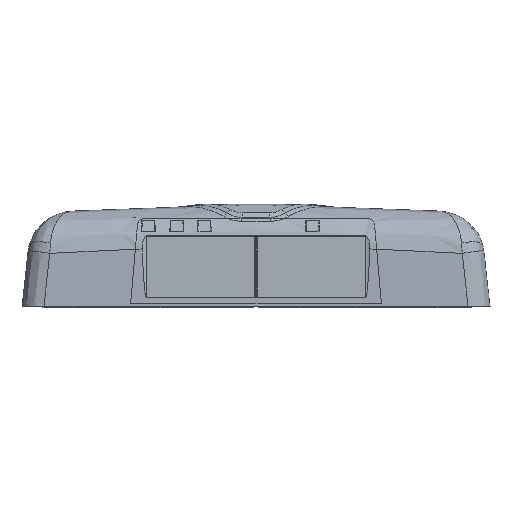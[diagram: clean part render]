
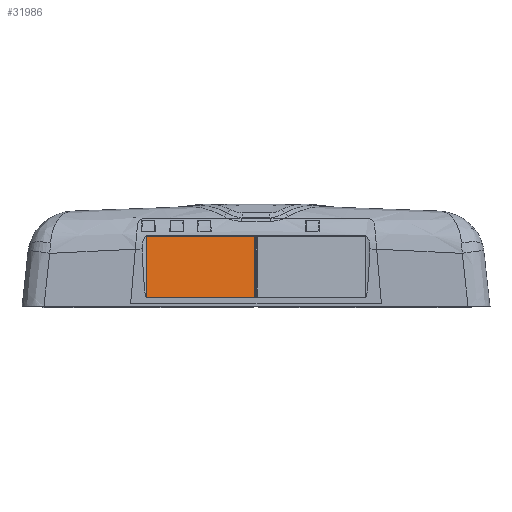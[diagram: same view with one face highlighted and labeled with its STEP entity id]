
A CAD part, front view. The second image highlights one B-rep face of the part: STEP entity #31986.
In plain terms, the highlighted planar face has unit normal (0, -0.995, 0.096) as drawn and (0, -1, 0) by its records, which use the part's own axes.
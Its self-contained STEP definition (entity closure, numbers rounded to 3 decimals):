
#2370 = VERTEX_POINT ( 'NONE', #3170 ) ;
#3170 = CARTESIAN_POINT ( 'NONE',  ( 0., 0., -27.9 ) ) ;
#9799 = DIRECTION ( 'NONE',  ( 0., 0., -1. ) ) ;
#10521 = FACE_OUTER_BOUND ( 'NONE', #75800, .T. ) ;
#12078 = VERTEX_POINT ( 'NONE', #63163 ) ;
#12649 = VERTEX_POINT ( 'NONE', #60133 ) ;
#13370 = VECTOR ( 'NONE', #42591, 1000. ) ;
#16079 = PLANE ( 'NONE',  #79924 ) ;
#16659 = EDGE_CURVE ( 'NONE', #12649, #2370, #44475, .T. ) ;
#17393 = CARTESIAN_POINT ( 'NONE',  ( 0., 0., 0. ) ) ;
#19247 = ORIENTED_EDGE ( 'NONE', *, *, #56080, .F. ) ;
#20453 = DIRECTION ( 'NONE',  ( -1., 0., 0. ) ) ;
#23029 = DIRECTION ( 'NONE',  ( 0., -1., 0. ) ) ;
#23168 = VERTEX_POINT ( 'NONE', #78271 ) ;
#27731 = CARTESIAN_POINT ( 'NONE',  ( 49.25, 0., 0. ) ) ;
#31986 = ADVANCED_FACE ( 'NONE', ( #10521 ), #16079, .T. ) ;
#36414 = EDGE_CURVE ( 'NONE', #23168, #12649, #46475, .T. ) ;
#39528 = CARTESIAN_POINT ( 'NONE',  ( 0., 0., -27.9 ) ) ;
#42591 = DIRECTION ( 'NONE',  ( 1., 0., 0. ) ) ;
#44475 = LINE ( 'NONE', #39528, #74933 ) ;
#46141 = CARTESIAN_POINT ( 'NONE',  ( 0., 0., 0. ) ) ;
#46475 = LINE ( 'NONE', #27731, #60272 ) ;
#46985 = LINE ( 'NONE', #17393, #13370 ) ;
#47537 = ORIENTED_EDGE ( 'NONE', *, *, #16659, .F. ) ;
#52282 = ORIENTED_EDGE ( 'NONE', *, *, #81321, .F. ) ;
#53544 = DIRECTION ( 'NONE',  ( 0., 0., 1. ) ) ;
#56080 = EDGE_CURVE ( 'NONE', #12078, #23168, #46985, .T. ) ;
#59362 = VECTOR ( 'NONE', #53544, 1000. ) ;
#60133 = CARTESIAN_POINT ( 'NONE',  ( 49.25, 0., -27.9 ) ) ;
#60272 = VECTOR ( 'NONE', #9799, 1000. ) ;
#60363 = LINE ( 'NONE', #46141, #59362 ) ;
#63163 = CARTESIAN_POINT ( 'NONE',  ( 0., 0., 0. ) ) ;
#71399 = ORIENTED_EDGE ( 'NONE', *, *, #36414, .F. ) ;
#72878 = CARTESIAN_POINT ( 'NONE',  ( 0., 0., -27.9 ) ) ;
#74933 = VECTOR ( 'NONE', #20453, 1000. ) ;
#75800 = EDGE_LOOP ( 'NONE', ( #52282, #47537, #71399, #19247 ) ) ;
#78271 = CARTESIAN_POINT ( 'NONE',  ( 49.25, 0., 0. ) ) ;
#79786 = DIRECTION ( 'NONE',  ( 0., 0., -1. ) ) ;
#79924 = AXIS2_PLACEMENT_3D ( 'NONE', #72878, #23029, #79786 ) ;
#81321 = EDGE_CURVE ( 'NONE', #2370, #12078, #60363, .T. ) ;
